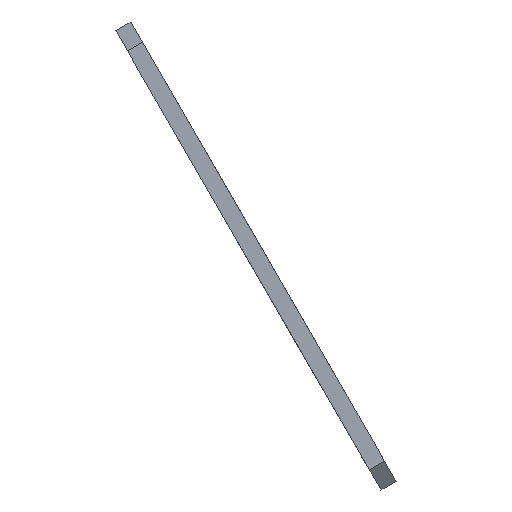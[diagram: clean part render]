
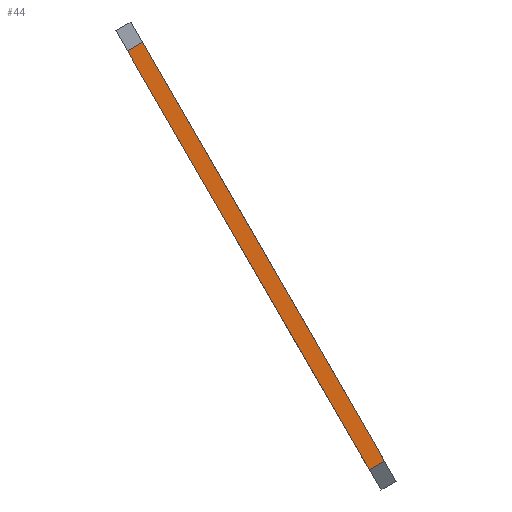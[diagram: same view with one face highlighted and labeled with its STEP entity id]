
A CAD part, left-side view. The second image highlights one B-rep face of the part: STEP entity #44.
In plain terms, the highlighted planar face has unit normal (-1, 0, 0).
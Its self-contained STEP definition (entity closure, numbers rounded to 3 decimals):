
#44=ADVANCED_FACE('',(#82),#688,.T.);
#82=FACE_OUTER_BOUND('',#127,.T.);
#127=EDGE_LOOP('',(#253,#254,#255,#256));
#253=ORIENTED_EDGE('',*,*,#414,.T.);
#254=ORIENTED_EDGE('',*,*,#398,.F.);
#255=ORIENTED_EDGE('',*,*,#397,.T.);
#256=ORIENTED_EDGE('',*,*,#416,.F.);
#397=EDGE_CURVE('',#606,#618,#517,.T.);
#398=EDGE_CURVE('',#606,#605,#518,.T.);
#414=EDGE_CURVE('',#617,#605,#534,.T.);
#416=EDGE_CURVE('',#617,#618,#536,.T.);
#517=B_SPLINE_CURVE_WITH_KNOTS('',1,(#1091,#1092),.UNSPECIFIED.,.F.,.F.,
(2,2),(-89.813,-7.),.UNSPECIFIED.);
#518=B_SPLINE_CURVE_WITH_KNOTS('',1,(#1093,#1094),.UNSPECIFIED.,.F.,.F.,
(2,2),(0.,3.),.UNSPECIFIED.);
#534=B_SPLINE_CURVE_WITH_KNOTS('',1,(#1129,#1130),.UNSPECIFIED.,.F.,.F.,
(2,2),(-183.627,-100.813),.UNSPECIFIED.);
#536=B_SPLINE_CURVE_WITH_KNOTS('',1,(#1133,#1134),.UNSPECIFIED.,.F.,.F.,
(2,2),(0.,3.),.UNSPECIFIED.);
#605=VERTEX_POINT('',#987);
#606=VERTEX_POINT('',#988);
#617=VERTEX_POINT('',#999);
#618=VERTEX_POINT('',#1000);
#688=PLANE('',#734);
#734=AXIS2_PLACEMENT_3D('',#792,#763,$);
#763=DIRECTION('',(-1.,0.,0.));
#792=CARTESIAN_POINT('',(-55.249,-197.644,43.969));
#987=CARTESIAN_POINT('',(-55.249,-193.045,45.933));
#988=CARTESIAN_POINT('',(-55.249,-195.644,47.433));
#999=CARTESIAN_POINT('',(-55.249,-151.639,117.652));
#1000=CARTESIAN_POINT('',(-55.249,-154.237,119.152));
#1091=CARTESIAN_POINT('',(-55.249,-195.644,47.433));
#1092=CARTESIAN_POINT('',(-55.249,-154.237,119.152));
#1093=CARTESIAN_POINT('',(-55.249,-195.644,47.433));
#1094=CARTESIAN_POINT('',(-55.249,-193.045,45.933));
#1129=CARTESIAN_POINT('',(-55.249,-151.639,117.652));
#1130=CARTESIAN_POINT('',(-55.249,-193.045,45.933));
#1133=CARTESIAN_POINT('',(-55.249,-151.639,117.652));
#1134=CARTESIAN_POINT('',(-55.249,-154.237,119.152));
